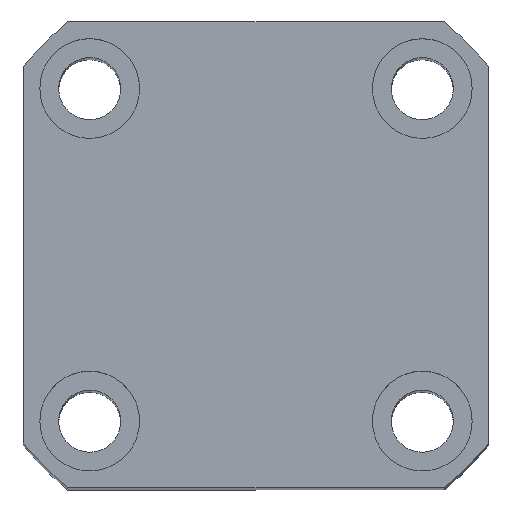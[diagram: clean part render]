
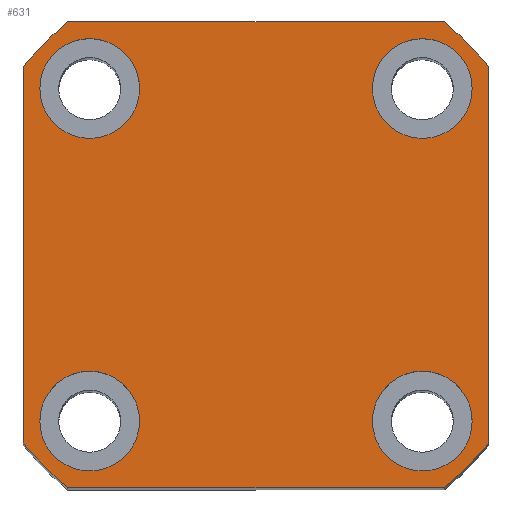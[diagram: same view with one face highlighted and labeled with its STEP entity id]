
A CAD part, top view. The second image highlights one B-rep face of the part: STEP entity #631.
In plain terms, the highlighted planar face has unit normal (0, 0, 1).
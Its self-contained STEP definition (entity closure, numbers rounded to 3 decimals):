
#33 = VERTEX_POINT ( 'NONE', #4310 ) ;
#56 = FACE_BOUND ( 'NONE', #9792, .T. ) ;
#77 = CARTESIAN_POINT ( 'NONE',  ( 0., 0., 123. ) ) ;
#86 = CARTESIAN_POINT ( 'NONE',  ( 16.971, -21., 123. ) ) ;
#126 = ORIENTED_EDGE ( 'NONE', *, *, #9633, .F. ) ;
#139 = DIRECTION ( 'NONE',  ( 0., 0., 1. ) ) ;
#268 = ORIENTED_EDGE ( 'NONE', *, *, #10538, .T. ) ;
#285 = DIRECTION ( 'NONE',  ( 1., 0., 0. ) ) ;
#319 = AXIS2_PLACEMENT_3D ( 'NONE', #5072, #139, #5893 ) ;
#361 = AXIS2_PLACEMENT_3D ( 'NONE', #5887, #5608, #5328 ) ;
#482 = DIRECTION ( 'NONE',  ( 1., 0., 0. ) ) ;
#524 = EDGE_CURVE ( 'NONE', #2781, #9791, #2794, .T. ) ;
#631 = ADVANCED_FACE ( 'NONE', ( #56, #9031, #8511, #2266, #4435 ), #2792, .T. ) ;
#711 = DIRECTION ( 'NONE',  ( 1., 0., 0. ) ) ;
#772 = ORIENTED_EDGE ( 'NONE', *, *, #1527, .F. ) ;
#783 = ORIENTED_EDGE ( 'NONE', *, *, #1379, .T. ) ;
#852 = AXIS2_PLACEMENT_3D ( 'NONE', #7813, #2974, #8634 ) ;
#902 = DIRECTION ( 'NONE',  ( 1., 0., 0. ) ) ;
#943 = CARTESIAN_POINT ( 'NONE',  ( 21., 21., 123. ) ) ;
#1003 = AXIS2_PLACEMENT_3D ( 'NONE', #6245, #1333, #7043 ) ;
#1082 = DIRECTION ( 'NONE',  ( 0., 0., 1. ) ) ;
#1172 = CARTESIAN_POINT ( 'NONE',  ( 15., 15., 123. ) ) ;
#1223 = DIRECTION ( 'NONE',  ( 0., -1., 0. ) ) ;
#1275 = DIRECTION ( 'NONE',  ( 0., 0., 1. ) ) ;
#1325 = ORIENTED_EDGE ( 'NONE', *, *, #6702, .F. ) ;
#1333 = DIRECTION ( 'NONE',  ( 0., 0., 1. ) ) ;
#1379 = EDGE_CURVE ( 'NONE', #1846, #8906, #9284, .T. ) ;
#1392 = EDGE_CURVE ( 'NONE', #6199, #7200, #9019, .T. ) ;
#1441 = VERTEX_POINT ( 'NONE', #3499 ) ;
#1457 = AXIS2_PLACEMENT_3D ( 'NONE', #1172, #1275, #285 ) ;
#1459 = AXIS2_PLACEMENT_3D ( 'NONE', #4525, #4494, #4460 ) ;
#1527 = EDGE_CURVE ( 'NONE', #9396, #4745, #7765, .T. ) ;
#1744 = CARTESIAN_POINT ( 'NONE',  ( 16.971, 21., 123. ) ) ;
#1781 = DIRECTION ( 'NONE',  ( 0., 1., 0. ) ) ;
#1846 = VERTEX_POINT ( 'NONE', #1997 ) ;
#1997 = CARTESIAN_POINT ( 'NONE',  ( -21., -16.971, 123. ) ) ;
#2254 = AXIS2_PLACEMENT_3D ( 'NONE', #10277, #5408, #482 ) ;
#2266 = FACE_BOUND ( 'NONE', #7059, .T. ) ;
#2364 = EDGE_LOOP ( 'NONE', ( #8455, #4622 ) ) ;
#2490 = CARTESIAN_POINT ( 'NONE',  ( 0., 0., 123. ) ) ;
#2491 = VERTEX_POINT ( 'NONE', #2804 ) ;
#2600 = ORIENTED_EDGE ( 'NONE', *, *, #8104, .T. ) ;
#2680 = VECTOR ( 'NONE', #1223, 1000. ) ;
#2739 = ORIENTED_EDGE ( 'NONE', *, *, #4700, .T. ) ;
#2746 = DIRECTION ( 'NONE',  ( 0., 0., 1. ) ) ;
#2781 = VERTEX_POINT ( 'NONE', #3000 ) ;
#2792 = PLANE ( 'NONE',  #9687 ) ;
#2794 = CIRCLE ( 'NONE', #1457, 4.5 ) ;
#2804 = CARTESIAN_POINT ( 'NONE',  ( 21., 16.971, 123. ) ) ;
#2863 = CARTESIAN_POINT ( 'NONE',  ( 21., -16.971, 123. ) ) ;
#2957 = CIRCLE ( 'NONE', #6550, 27. ) ;
#2974 = DIRECTION ( 'NONE',  ( 0., 0., 1. ) ) ;
#3000 = CARTESIAN_POINT ( 'NONE',  ( 19.5, 15., 123. ) ) ;
#3096 = CARTESIAN_POINT ( 'NONE',  ( 0., 0., 123. ) ) ;
#3178 = DIRECTION ( 'NONE',  ( 1., 0., 0. ) ) ;
#3222 = CARTESIAN_POINT ( 'NONE',  ( -21., 21., 123. ) ) ;
#3309 = DIRECTION ( 'NONE',  ( 1., 0., 0. ) ) ;
#3342 = DIRECTION ( 'NONE',  ( 1., 0., 0. ) ) ;
#3352 = CARTESIAN_POINT ( 'NONE',  ( 19.5, -14.998, 123. ) ) ;
#3376 = DIRECTION ( 'NONE',  ( 0., 0., 1. ) ) ;
#3407 = CARTESIAN_POINT ( 'NONE',  ( 15., -14.998, 123. ) ) ;
#3499 = CARTESIAN_POINT ( 'NONE',  ( -10.5, -14.998, 123. ) ) ;
#3597 = LINE ( 'NONE', #943, #7388 ) ;
#3689 = CARTESIAN_POINT ( 'NONE',  ( -21., 21., 123. ) ) ;
#3784 = ORIENTED_EDGE ( 'NONE', *, *, #5661, .T. ) ;
#3981 = AXIS2_PLACEMENT_3D ( 'NONE', #5996, #1082, #6790 ) ;
#4094 = VECTOR ( 'NONE', #6414, 1000. ) ;
#4136 = ORIENTED_EDGE ( 'NONE', *, *, #1392, .F. ) ;
#4146 = VERTEX_POINT ( 'NONE', #86 ) ;
#4193 = EDGE_CURVE ( 'NONE', #2491, #8087, #5572, .T. ) ;
#4310 = CARTESIAN_POINT ( 'NONE',  ( -19.5, -14.998, 123. ) ) ;
#4435 = FACE_OUTER_BOUND ( 'NONE', #10261, .T. ) ;
#4460 = DIRECTION ( 'NONE',  ( 1., 0., 0. ) ) ;
#4494 = DIRECTION ( 'NONE',  ( 0., 0., 1. ) ) ;
#4524 = EDGE_CURVE ( 'NONE', #33, #1441, #6202, .T. ) ;
#4525 = CARTESIAN_POINT ( 'NONE',  ( -15., 15.002, 123. ) ) ;
#4622 = ORIENTED_EDGE ( 'NONE', *, *, #4524, .F. ) ;
#4700 = EDGE_CURVE ( 'NONE', #5948, #1846, #4832, .T. ) ;
#4703 = VERTEX_POINT ( 'NONE', #2863 ) ;
#4745 = VERTEX_POINT ( 'NONE', #10229 ) ;
#4821 = LINE ( 'NONE', #4968, #9438 ) ;
#4832 = LINE ( 'NONE', #3689, #2680 ) ;
#4968 = CARTESIAN_POINT ( 'NONE',  ( -21., -21., 123. ) ) ;
#5072 = CARTESIAN_POINT ( 'NONE',  ( -15., -14.998, 123. ) ) ;
#5303 = VERTEX_POINT ( 'NONE', #7935 ) ;
#5328 = DIRECTION ( 'NONE',  ( 1., 0., 0. ) ) ;
#5408 = DIRECTION ( 'NONE',  ( 0., 0., 1. ) ) ;
#5566 = EDGE_CURVE ( 'NONE', #4146, #4703, #2957, .T. ) ;
#5572 = CIRCLE ( 'NONE', #2254, 27. ) ;
#5608 = DIRECTION ( 'NONE',  ( 0., 0., 1. ) ) ;
#5633 = DIRECTION ( 'NONE',  ( 0., 0., 1. ) ) ;
#5661 = EDGE_CURVE ( 'NONE', #8906, #4146, #4821, .T. ) ;
#5775 = EDGE_CURVE ( 'NONE', #1441, #33, #6482, .T. ) ;
#5821 = DIRECTION ( 'NONE',  ( 0., 0., 1. ) ) ;
#5823 = DIRECTION ( 'NONE',  ( 1., 0., 0. ) ) ;
#5887 = CARTESIAN_POINT ( 'NONE',  ( 0., 0., 123. ) ) ;
#5893 = DIRECTION ( 'NONE',  ( 1., 0., 0. ) ) ;
#5915 = ORIENTED_EDGE ( 'NONE', *, *, #524, .F. ) ;
#5948 = VERTEX_POINT ( 'NONE', #10138 ) ;
#5972 = CIRCLE ( 'NONE', #1003, 4.5 ) ;
#5996 = CARTESIAN_POINT ( 'NONE',  ( 15., 15., 123. ) ) ;
#6199 = VERTEX_POINT ( 'NONE', #7234 ) ;
#6202 = CIRCLE ( 'NONE', #9923, 4.5 ) ;
#6245 = CARTESIAN_POINT ( 'NONE',  ( -15., 15.002, 123. ) ) ;
#6414 = DIRECTION ( 'NONE',  ( -1., 0., 0. ) ) ;
#6472 = CARTESIAN_POINT ( 'NONE',  ( -10.5, 15.002, 123. ) ) ;
#6482 = CIRCLE ( 'NONE', #319, 4.5 ) ;
#6550 = AXIS2_PLACEMENT_3D ( 'NONE', #77, #5821, #902 ) ;
#6702 = EDGE_CURVE ( 'NONE', #7200, #6199, #5972, .T. ) ;
#6790 = DIRECTION ( 'NONE',  ( 1., 0., 0. ) ) ;
#7043 = DIRECTION ( 'NONE',  ( 1., 0., 0. ) ) ;
#7059 = EDGE_LOOP ( 'NONE', ( #5915, #126 ) ) ;
#7200 = VERTEX_POINT ( 'NONE', #6472 ) ;
#7231 = CIRCLE ( 'NONE', #7378, 27. ) ;
#7234 = CARTESIAN_POINT ( 'NONE',  ( -19.5, 15.002, 123. ) ) ;
#7378 = AXIS2_PLACEMENT_3D ( 'NONE', #2490, #8192, #3342 ) ;
#7388 = VECTOR ( 'NONE', #1781, 1000. ) ;
#7558 = ORIENTED_EDGE ( 'NONE', *, *, #9000, .F. ) ;
#7657 = CARTESIAN_POINT ( 'NONE',  ( 10.5, 15., 123. ) ) ;
#7765 = CIRCLE ( 'NONE', #9689, 4.5 ) ;
#7813 = CARTESIAN_POINT ( 'NONE',  ( 15., -14.998, 123. ) ) ;
#7914 = EDGE_CURVE ( 'NONE', #8087, #5303, #8412, .T. ) ;
#7935 = CARTESIAN_POINT ( 'NONE',  ( -16.971, 21., 123. ) ) ;
#8011 = CIRCLE ( 'NONE', #3981, 4.5 ) ;
#8087 = VERTEX_POINT ( 'NONE', #1744 ) ;
#8104 = EDGE_CURVE ( 'NONE', #4703, #2491, #3597, .T. ) ;
#8192 = DIRECTION ( 'NONE',  ( 0., 0., 1. ) ) ;
#8214 = ORIENTED_EDGE ( 'NONE', *, *, #7914, .T. ) ;
#8341 = ORIENTED_EDGE ( 'NONE', *, *, #5566, .T. ) ;
#8358 = EDGE_LOOP ( 'NONE', ( #772, #7558 ) ) ;
#8412 = LINE ( 'NONE', #3222, #4094 ) ;
#8455 = ORIENTED_EDGE ( 'NONE', *, *, #5775, .F. ) ;
#8511 = FACE_BOUND ( 'NONE', #8358, .T. ) ;
#8634 = DIRECTION ( 'NONE',  ( 1., 0., 0. ) ) ;
#8906 = VERTEX_POINT ( 'NONE', #9359 ) ;
#9000 = EDGE_CURVE ( 'NONE', #4745, #9396, #10077, .T. ) ;
#9019 = CIRCLE ( 'NONE', #1459, 4.5 ) ;
#9031 = FACE_BOUND ( 'NONE', #2364, .T. ) ;
#9284 = CIRCLE ( 'NONE', #361, 27. ) ;
#9359 = CARTESIAN_POINT ( 'NONE',  ( -16.971, -21., 123. ) ) ;
#9396 = VERTEX_POINT ( 'NONE', #3352 ) ;
#9438 = VECTOR ( 'NONE', #5823, 1000. ) ;
#9633 = EDGE_CURVE ( 'NONE', #9791, #2781, #8011, .T. ) ;
#9687 = AXIS2_PLACEMENT_3D ( 'NONE', #3096, #2746, #3178 ) ;
#9689 = AXIS2_PLACEMENT_3D ( 'NONE', #3407, #3376, #3309 ) ;
#9791 = VERTEX_POINT ( 'NONE', #7657 ) ;
#9792 = EDGE_LOOP ( 'NONE', ( #1325, #4136 ) ) ;
#9891 = ORIENTED_EDGE ( 'NONE', *, *, #4193, .T. ) ;
#9923 = AXIS2_PLACEMENT_3D ( 'NONE', #10508, #5633, #711 ) ;
#10077 = CIRCLE ( 'NONE', #852, 4.5 ) ;
#10138 = CARTESIAN_POINT ( 'NONE',  ( -21., 16.971, 123. ) ) ;
#10229 = CARTESIAN_POINT ( 'NONE',  ( 10.5, -14.998, 123. ) ) ;
#10261 = EDGE_LOOP ( 'NONE', ( #2600, #9891, #8214, #268, #2739, #783, #3784, #8341 ) ) ;
#10277 = CARTESIAN_POINT ( 'NONE',  ( 0., 0., 123. ) ) ;
#10508 = CARTESIAN_POINT ( 'NONE',  ( -15., -14.998, 123. ) ) ;
#10538 = EDGE_CURVE ( 'NONE', #5303, #5948, #7231, .T. ) ;
